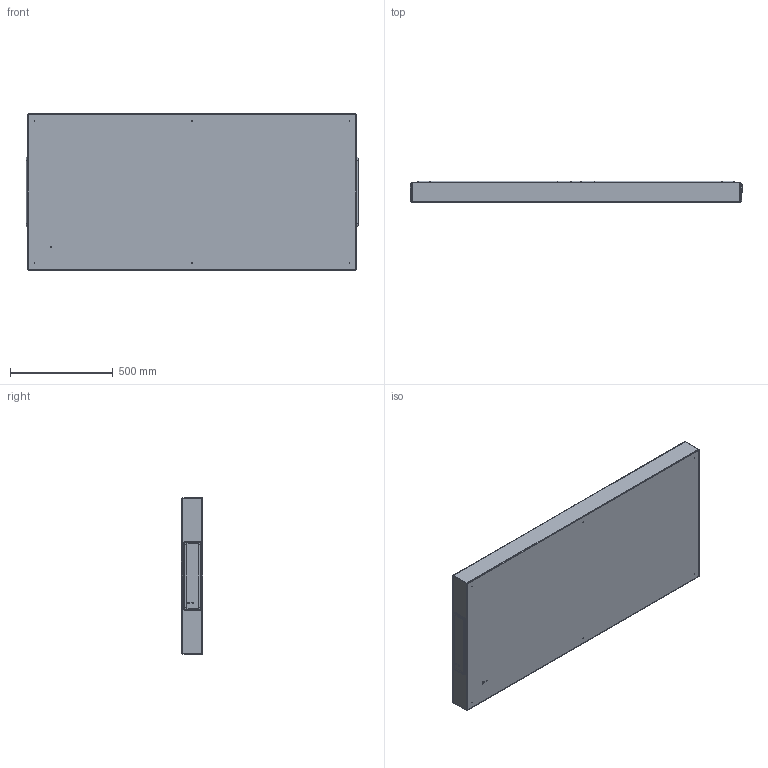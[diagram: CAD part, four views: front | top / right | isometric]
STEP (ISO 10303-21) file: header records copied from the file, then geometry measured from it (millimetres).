
FILE_DESCRIPTION (( 'STEP AP203' ), '1' );
FILE_NAME ('97860.step', '2013-03-28T12:50:22', ( '' ), ( '' ), 'SwSTEP 2.0', 'SolidWorks 2010', '' );
FILE_SCHEMA (( 'CONFIG_CONTROL_DESIGN' ));
Length unit declared in the file: inch
Products named in the file (12): 97860; 11458067_11458067; 89002158_89002158; 60100041_60100041; 87931527_87931527; 87931368_SLEEVE; 89002206_89002206; 60127195_60127195; 87418167; 87787624_FORMED; 99401225_Config-Drawing; 89051421_87788216
Assembly tree (12 placements, depth 4):
  97860
    60127195_60127195  x2
      87418167
        87787624_FORMED
        99401225_Config-Drawing
      89051421_87788216
    11458067_11458067
      60100041_60100041
        87931527_87931527
        87931368_SLEEVE
      89002158_89002158
      89002206_89002206
Bounding box: 1614.86 x 104.96 x 758.98 mm (x, y, z)
Volume: 3617616.1 mm3; surface area: 3867440.2 mm2
Topology: 10 solids, 10 shells, 459 faces, 1084 edges, 672 vertices
Faces by surface type: plane 219, cylinder 130, torus 68, sphere 24, cone 10, bspline 8
Entity records: 12456 total; most frequent: CARTESIAN_POINT 2367, DIRECTION 1880, ORIENTED_EDGE 1772, EDGE_CURVE 886, AXIS2_PLACEMENT_3D 665, VERTEX_POINT 552, VECTOR 550, LINE 550
